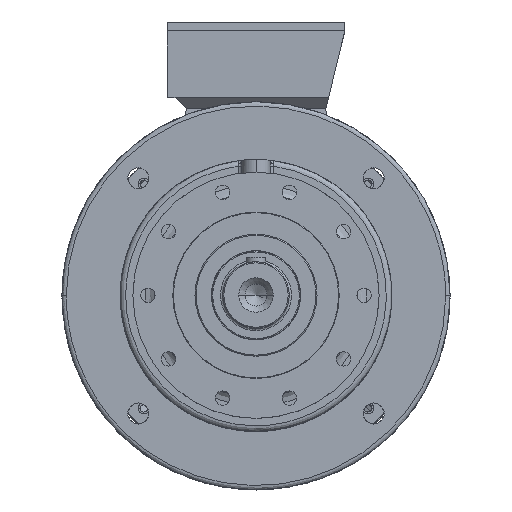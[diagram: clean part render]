
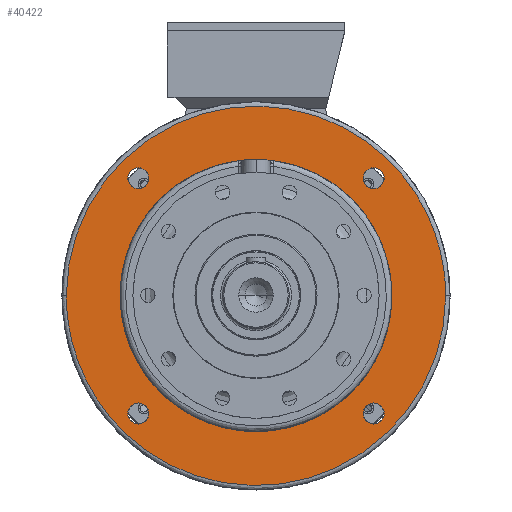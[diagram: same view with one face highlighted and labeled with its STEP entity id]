
A CAD part, top view. The second image highlights one B-rep face of the part: STEP entity #40422.
In plain terms, the highlighted planar face has unit normal (0, 0, 1).
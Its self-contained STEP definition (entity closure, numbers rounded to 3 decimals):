
#3153 = EDGE_CURVE ( 'NONE', #47168, #47261, #17383, .T. ) ;
#3169 = EDGE_CURVE ( 'NONE', #47193, #47333, #17545, .T. ) ;
#3174 = EDGE_CURVE ( 'NONE', #47211, #47302, #17532, .T. ) ;
#3202 = EDGE_CURVE ( 'NONE', #47296, #47390, #17528, .T. ) ;
#3221 = EDGE_CURVE ( 'NONE', #47290, #47357, #17557, .T. ) ;
#4151 = AXIS2_PLACEMENT_3D ( 'NONE', #61199, #61217, #61230 ) ;
#4153 = AXIS2_PLACEMENT_3D ( 'NONE', #61212, #61215, #61223 ) ;
#4159 = AXIS2_PLACEMENT_3D ( 'NONE', #61198, #61206, #61231 ) ;
#4180 = AXIS2_PLACEMENT_3D ( 'NONE', #61275, #61244, #61262 ) ;
#4192 = AXIS2_PLACEMENT_3D ( 'NONE', #61431, #61434, #61432 ) ;
#17383 = CIRCLE ( 'NONE', #26718, 9.5 ) ;
#17528 = CIRCLE ( 'NONE', #26870, 9.5 ) ;
#17532 = CIRCLE ( 'NONE', #26803, 9.5 ) ;
#17545 = CIRCLE ( 'NONE', #26849, 9.5 ) ;
#17557 = CIRCLE ( 'NONE', #26833, 122. ) ;
#20329 = EDGE_LOOP ( 'NONE', ( #90739, #90771 ) ) ;
#20350 = EDGE_LOOP ( 'NONE', ( #90741, #90718 ) ) ;
#20368 = EDGE_LOOP ( 'NONE', ( #90729, #90734 ) ) ;
#20394 = EDGE_LOOP ( 'NONE', ( #90770, #90732 ) ) ;
#20442 = EDGE_LOOP ( 'NONE', ( #90762, #90730 ) ) ;
#20505 = EDGE_LOOP ( 'NONE', ( #90773, #90753 ) ) ;
#21980 = CARTESIAN_POINT ( 'NONE',  ( -106.066, 96.566, -116.5 ) ) ;
#22016 = CARTESIAN_POINT ( 'NONE',  ( 106.066, -96.566, -116.5 ) ) ;
#22033 = CARTESIAN_POINT ( 'NONE',  ( 115.566, 106.066, -116.5 ) ) ;
#22035 = CARTESIAN_POINT ( 'NONE',  ( 106.066, -115.566, -116.5 ) ) ;
#22042 = CARTESIAN_POINT ( 'NONE',  ( -106.066, 115.566, -116.5 ) ) ;
#22057 = CARTESIAN_POINT ( 'NONE',  ( -122., 0., -116.5 ) ) ;
#22086 = CARTESIAN_POINT ( 'NONE',  ( -96.566, -106.066, -116.5 ) ) ;
#22120 = CARTESIAN_POINT ( 'NONE',  ( 96.566, 106.066, -116.5 ) ) ;
#22130 = CARTESIAN_POINT ( 'NONE',  ( 122., 0., -116.5 ) ) ;
#22170 = CARTESIAN_POINT ( 'NONE',  ( -115.566, -106.066, -116.5 ) ) ;
#23846 = FACE_BOUND ( 'NONE', #20442, .T. ) ;
#23900 = FACE_BOUND ( 'NONE', #20505, .T. ) ;
#23917 = FACE_OUTER_BOUND ( 'NONE', #20350, .T. ) ;
#23922 = FACE_BOUND ( 'NONE', #20368, .T. ) ;
#23933 = FACE_BOUND ( 'NONE', #20329, .T. ) ;
#23940 = FACE_BOUND ( 'NONE', #20394, .T. ) ;
#26718 = AXIS2_PLACEMENT_3D ( 'NONE', #60880, #60824, #60854 ) ;
#26803 = AXIS2_PLACEMENT_3D ( 'NONE', #60959, #60984, #60966 ) ;
#26833 = AXIS2_PLACEMENT_3D ( 'NONE', #86019, #86036, #86047 ) ;
#26849 = AXIS2_PLACEMENT_3D ( 'NONE', #60998, #60957, #61005 ) ;
#26870 = AXIS2_PLACEMENT_3D ( 'NONE', #85860, #85851, #85881 ) ;
#40422 = ADVANCED_FACE ( 'NONE', ( #23917, #23940, #23846, #23922, #23900, #23933 ), #90030, .T. ) ;
#45626 =( BOUNDED_CURVE ( )  B_SPLINE_CURVE ( 3, ( #61442, #61407, #61444, #61408 ),
 .UNSPECIFIED., .F., .F. ) 
 B_SPLINE_CURVE_WITH_KNOTS ( ( 4, 4 ),
 ( 0.5, 1. ),
 .UNSPECIFIED. ) 
 CURVE ( )  GEOMETRIC_REPRESENTATION_ITEM ( )  RATIONAL_B_SPLINE_CURVE ( ( 1., 0.333, 0.333, 1. ) ) 
 REPRESENTATION_ITEM ( '' )  );
#45639 =( BOUNDED_CURVE ( )  B_SPLINE_CURVE ( 3, ( #70542, #70505, #70521, #70485 ),
 .UNSPECIFIED., .F., .F. ) 
 B_SPLINE_CURVE_WITH_KNOTS ( ( 4, 4 ),
 ( 0., 0.5 ),
 .UNSPECIFIED. ) 
 CURVE ( )  GEOMETRIC_REPRESENTATION_ITEM ( )  RATIONAL_B_SPLINE_CURVE ( ( 1., 0.333, 0.333, 1. ) ) 
 REPRESENTATION_ITEM ( '' )  );
#47168 = VERTEX_POINT ( 'NONE', #21980 ) ;
#47193 = VERTEX_POINT ( 'NONE', #22086 ) ;
#47211 = VERTEX_POINT ( 'NONE', #22035 ) ;
#47261 = VERTEX_POINT ( 'NONE', #22042 ) ;
#47290 = VERTEX_POINT ( 'NONE', #22057 ) ;
#47296 = VERTEX_POINT ( 'NONE', #22033 ) ;
#47302 = VERTEX_POINT ( 'NONE', #22016 ) ;
#47333 = VERTEX_POINT ( 'NONE', #22170 ) ;
#47357 = VERTEX_POINT ( 'NONE', #22130 ) ;
#47390 = VERTEX_POINT ( 'NONE', #22120 ) ;
#56851 = CIRCLE ( 'NONE', #4151, 9.5 ) ;
#56853 = CIRCLE ( 'NONE', #4180, 9.5 ) ;
#56893 = CIRCLE ( 'NONE', #4159, 122. ) ;
#56913 = CIRCLE ( 'NONE', #4153, 9.5 ) ;
#56920 = CIRCLE ( 'NONE', #4192, 9.5 ) ;
#58367 = AXIS2_PLACEMENT_3D ( 'NONE', #90000, #89994, #90007 ) ;
#60824 = DIRECTION ( 'NONE',  ( 0., 0., -1. ) ) ;
#60854 = DIRECTION ( 'NONE',  ( 0., 1., 0. ) ) ;
#60880 = CARTESIAN_POINT ( 'NONE',  ( -106.066, 106.066, -116.5 ) ) ;
#60957 = DIRECTION ( 'NONE',  ( 0., 0., -1. ) ) ;
#60959 = CARTESIAN_POINT ( 'NONE',  ( 106.066, -106.066, -116.5 ) ) ;
#60966 = DIRECTION ( 'NONE',  ( 0., 1., 0. ) ) ;
#60984 = DIRECTION ( 'NONE',  ( 0., 0., -1. ) ) ;
#60998 = CARTESIAN_POINT ( 'NONE',  ( -106.066, -106.066, -116.5 ) ) ;
#61005 = DIRECTION ( 'NONE',  ( -1., 0., 0. ) ) ;
#61198 = CARTESIAN_POINT ( 'NONE',  ( 0., 0., -116.5 ) ) ;
#61199 = CARTESIAN_POINT ( 'NONE',  ( 106.066, 106.066, -116.5 ) ) ;
#61206 = DIRECTION ( 'NONE',  ( 0., 0., -1. ) ) ;
#61212 = CARTESIAN_POINT ( 'NONE',  ( 106.066, -106.066, -116.5 ) ) ;
#61215 = DIRECTION ( 'NONE',  ( 0., 0., -1. ) ) ;
#61217 = DIRECTION ( 'NONE',  ( 0., 0., -1. ) ) ;
#61223 = DIRECTION ( 'NONE',  ( 0., 1., 0. ) ) ;
#61230 = DIRECTION ( 'NONE',  ( -1., 0., 0. ) ) ;
#61231 = DIRECTION ( 'NONE',  ( -1., 0., 0. ) ) ;
#61244 = DIRECTION ( 'NONE',  ( 0., 0., -1. ) ) ;
#61262 = DIRECTION ( 'NONE',  ( -1., 0., 0. ) ) ;
#61275 = CARTESIAN_POINT ( 'NONE',  ( -106.066, -106.066, -116.5 ) ) ;
#61407 = CARTESIAN_POINT ( 'NONE',  ( -171., 342., -116.5 ) ) ;
#61408 = CARTESIAN_POINT ( 'NONE',  ( 171., 0., -116.5 ) ) ;
#61431 = CARTESIAN_POINT ( 'NONE',  ( -106.066, 106.066, -116.5 ) ) ;
#61432 = DIRECTION ( 'NONE',  ( 0., 1., 0. ) ) ;
#61434 = DIRECTION ( 'NONE',  ( 0., 0., -1. ) ) ;
#61442 = CARTESIAN_POINT ( 'NONE',  ( -171., 0., -116.5 ) ) ;
#61444 = CARTESIAN_POINT ( 'NONE',  ( 171., 342., -116.5 ) ) ;
#65790 = VERTEX_POINT ( 'NONE', #113178 ) ;
#65878 = VERTEX_POINT ( 'NONE', #113117 ) ;
#70485 = CARTESIAN_POINT ( 'NONE',  ( -171., 0., -116.5 ) ) ;
#70505 = CARTESIAN_POINT ( 'NONE',  ( 171., -342., -116.5 ) ) ;
#70521 = CARTESIAN_POINT ( 'NONE',  ( -171., -342., -116.5 ) ) ;
#70542 = CARTESIAN_POINT ( 'NONE',  ( 171., 0., -116.5 ) ) ;
#72116 = EDGE_CURVE ( 'NONE', #47390, #47296, #56851, .T. ) ;
#72144 = EDGE_CURVE ( 'NONE', #47357, #47290, #56893, .T. ) ;
#72153 = EDGE_CURVE ( 'NONE', #47302, #47211, #56913, .T. ) ;
#72216 = EDGE_CURVE ( 'NONE', #47333, #47193, #56853, .T. ) ;
#72250 = EDGE_CURVE ( 'NONE', #47261, #47168, #56920, .T. ) ;
#72254 = EDGE_CURVE ( 'NONE', #65790, #65878, #45626, .T. ) ;
#85851 = DIRECTION ( 'NONE',  ( 0., 0., -1. ) ) ;
#85860 = CARTESIAN_POINT ( 'NONE',  ( 106.066, 106.066, -116.5 ) ) ;
#85881 = DIRECTION ( 'NONE',  ( -1., 0., 0. ) ) ;
#86019 = CARTESIAN_POINT ( 'NONE',  ( 0., 0., -116.5 ) ) ;
#86036 = DIRECTION ( 'NONE',  ( 0., 0., -1. ) ) ;
#86047 = DIRECTION ( 'NONE',  ( -1., 0., 0. ) ) ;
#89994 = DIRECTION ( 'NONE',  ( 0., 0., 1. ) ) ;
#90000 = CARTESIAN_POINT ( 'NONE',  ( 0., 122., -116.5 ) ) ;
#90007 = DIRECTION ( 'NONE',  ( 1., 0., 0. ) ) ;
#90030 = PLANE ( 'NONE',  #58367 ) ;
#90718 = ORIENTED_EDGE ( 'NONE', *, *, #72254, .F. ) ;
#90729 = ORIENTED_EDGE ( 'NONE', *, *, #72216, .T. ) ;
#90730 = ORIENTED_EDGE ( 'NONE', *, *, #3153, .T. ) ;
#90732 = ORIENTED_EDGE ( 'NONE', *, *, #72144, .T. ) ;
#90734 = ORIENTED_EDGE ( 'NONE', *, *, #3169, .T. ) ;
#90739 = ORIENTED_EDGE ( 'NONE', *, *, #72116, .T. ) ;
#90741 = ORIENTED_EDGE ( 'NONE', *, *, #110807, .F. ) ;
#90753 = ORIENTED_EDGE ( 'NONE', *, *, #3174, .T. ) ;
#90762 = ORIENTED_EDGE ( 'NONE', *, *, #72250, .T. ) ;
#90770 = ORIENTED_EDGE ( 'NONE', *, *, #3221, .T. ) ;
#90771 = ORIENTED_EDGE ( 'NONE', *, *, #3202, .T. ) ;
#90773 = ORIENTED_EDGE ( 'NONE', *, *, #72153, .T. ) ;
#110807 = EDGE_CURVE ( 'NONE', #65878, #65790, #45639, .T. ) ;
#113117 = CARTESIAN_POINT ( 'NONE',  ( 171., 0., -116.5 ) ) ;
#113178 = CARTESIAN_POINT ( 'NONE',  ( -171., 0., -116.5 ) ) ;
